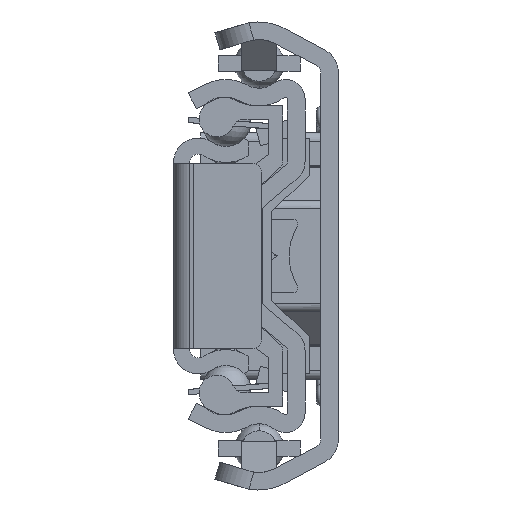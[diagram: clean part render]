
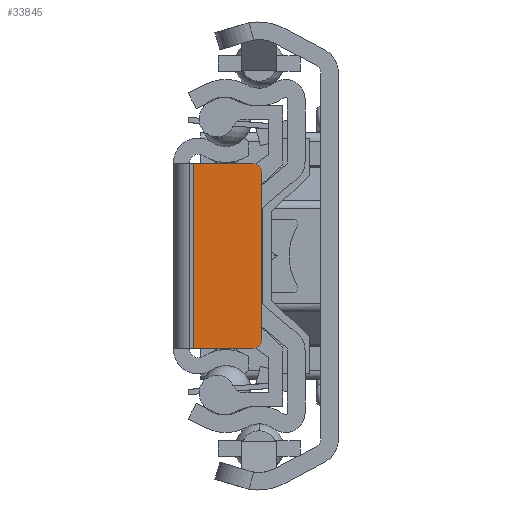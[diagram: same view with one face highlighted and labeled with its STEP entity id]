
A CAD part, left-side view. The second image highlights one B-rep face of the part: STEP entity #33845.
In plain terms, the highlighted planar face has unit normal (-1, 0, 0).
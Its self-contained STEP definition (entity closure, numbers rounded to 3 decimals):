
#29587=DIRECTION('',(0.,-1.,0.));
#29588=VECTOR('',#29587,6.7);
#29589=CARTESIAN_POINT('',(0.,-2.3,10.5));
#29590=LINE('',#29589,#29588);
#30324=DIRECTION('',(0.,-1.,0.));
#30325=VECTOR('',#30324,6.7);
#30326=CARTESIAN_POINT('',(0.,-2.3,-10.5));
#30327=LINE('',#30326,#30325);
#30328=CARTESIAN_POINT('',(0.,-9.,9.5));
#30329=DIRECTION('',(-1.,0.,0.));
#30330=DIRECTION('',(0.,-1.,0.));
#30331=AXIS2_PLACEMENT_3D('',#30328,#30329,#30330);
#30333=CARTESIAN_POINT('',(0.,-9.,-9.5));
#30334=DIRECTION('',(-1.,0.,0.));
#30335=DIRECTION('',(0.,0.,-1.));
#30336=AXIS2_PLACEMENT_3D('',#30333,#30334,#30335);
#30338=DIRECTION('',(0.,0.,1.));
#30339=VECTOR('',#30338,21.);
#30340=CARTESIAN_POINT('',(0.,-2.3,-10.5));
#30341=LINE('',#30340,#30339);
#30350=DIRECTION('',(0.,0.,1.));
#30351=VECTOR('',#30350,19.);
#30352=CARTESIAN_POINT('',(0.,-10.,-9.5));
#30353=LINE('',#30352,#30351);
#32340=CARTESIAN_POINT('',(0.,-2.3,-10.5));
#32341=CARTESIAN_POINT('',(0.,-2.3,10.5));
#32342=VERTEX_POINT('',#32340);
#32343=VERTEX_POINT('',#32341);
#32372=CARTESIAN_POINT('',(0.,-10.,9.5));
#32373=VERTEX_POINT('',#32372);
#32374=CARTESIAN_POINT('',(0.,-9.,10.5));
#32375=VERTEX_POINT('',#32374);
#32376=CARTESIAN_POINT('',(0.,-9.,-10.5));
#32377=CARTESIAN_POINT('',(0.,-10.,-9.5));
#32378=VERTEX_POINT('',#32376);
#32379=VERTEX_POINT('',#32377);
#33830=CARTESIAN_POINT('',(0.,-2.3,-10.5));
#33831=DIRECTION('',(-1.,0.,0.));
#33832=DIRECTION('',(0.,-1.,0.));
#33833=AXIS2_PLACEMENT_3D('',#33830,#33831,#33832);
#33834=PLANE('',#33833);
#33835=ORIENTED_EDGE('',*,*,#33052,.F.);
#33837=ORIENTED_EDGE('',*,*,#33836,.F.);
#33838=ORIENTED_EDGE('',*,*,#33821,.F.);
#33839=ORIENTED_EDGE('',*,*,#33811,.F.);
#33841=ORIENTED_EDGE('',*,*,#33840,.T.);
#33842=ORIENTED_EDGE('',*,*,#33029,.T.);
#33843=EDGE_LOOP('',(#33835,#33837,#33838,#33839,#33841,#33842));
#33844=FACE_OUTER_BOUND('',#33843,.F.);
#30332=CIRCLE('',#30331,1.);
#30337=CIRCLE('',#30336,1.);
#33029=EDGE_CURVE('',#32343,#32375,#29590,.T.);
#33052=EDGE_CURVE('',#32373,#32375,#30332,.T.);
#33811=EDGE_CURVE('',#32342,#32378,#30327,.T.);
#33821=EDGE_CURVE('',#32378,#32379,#30337,.T.);
#33836=EDGE_CURVE('',#32379,#32373,#30353,.T.);
#33840=EDGE_CURVE('',#32342,#32343,#30341,.T.);
#33845=ADVANCED_FACE('',(#33844),#33834,.T.);
